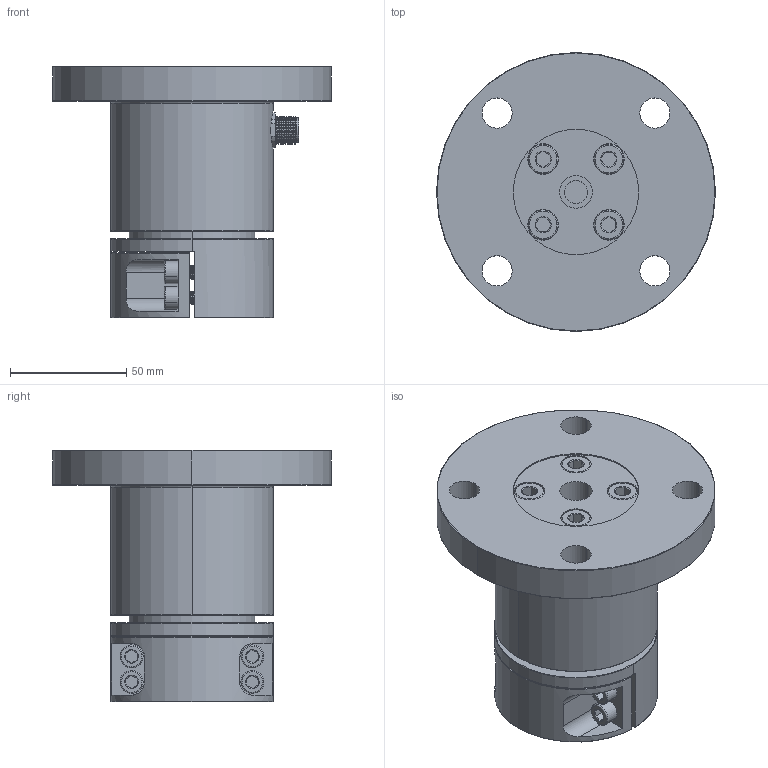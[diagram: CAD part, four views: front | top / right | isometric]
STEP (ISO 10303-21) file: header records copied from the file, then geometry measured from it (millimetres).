
FILE_DESCRIPTION (( 'STEP AP203' ), '1' );
FILE_NAME ('OWL220F.STEP', '2013-05-14T11:51:59', ( 'OS' ), ( 'Microsoft' ), 'SwSTEP 2.0', 'SolidWorks 2012', '' );
FILE_SCHEMA (( 'CONFIG_CONTROL_DESIGN' ));
Length unit declared in the file: millimetre
Products named in the file (37): 90005021 OWL220 Bearing Housing; OWL220 Beam Dummy; 90005024 OWL220 Flange Housing; OWL220F; Låsering Indv Ø47_0472_0_47-mattssons; Låsering Udv Ø20; 2204_Ø47xØ20x18; 22; 21; 20; 19; 18; 17; 16; 15; 14; 13; 12; 11; 10; 9; 8; 7; 6; 5; 4; 3; 2; 1; Lexan Ø36 x 0,5; 90010008 Unbraco M8 x 15; M12 x 1 NV14 x 2; 90005023 OWL220 Anti Rotation Pin Ø4; 90010004 Unbraco M6 x 12; 90080023 Connec indsats M12 43-01338; 90080022 M12 Adaptor R鷨; 90005022 OWL220 Clamp
Assembly tree (43 placements, depth 3):
  OWL220F
    90005024 OWL220 Flange Housing
    OWL220 Beam Dummy
    90005021 OWL220 Bearing Housing
    90005022 OWL220 Clamp
    90080022 M12 Adaptor R鷨
    90080023 Connec indsats M12 43-01338
    90010004 Unbraco M6 x 12  x4
    90005023 OWL220 Anti Rotation Pin Ø4  x2
    M12 x 1 NV14 x 2
    90010008 Unbraco M8 x 15  x4
    Lexan Ø36 x 0,5
    2204_Ø47xØ20x18
      1
      2
      3
      4
      5
      6
      7
      8
      9
      10
      11
      12
      13
      14
      15
      16
      17
      18
      19
      20
      21
      22
    Låsering Udv Ø20
    Låsering Indv Ø47_0472_0_47-mattssons
Bounding box: 120 x 120 x 108.2 mm (x, y, z)
Volume: 413388.2 mm3; surface area: 128658 mm2
Topology: 43 solids, 43 shells, 713 faces, 1739 edges, 1068 vertices
Faces by surface type: cylinder 337, plane 181, bspline 68, torus 65, cone 62
Entity records: 23837 total; most frequent: CARTESIAN_POINT 8201, DIRECTION 2537, ORIENTED_EDGE 2310, EDGE_CURVE 1155, AXIS2_PLACEMENT_3D 1065, VERTEX_POINT 754, EDGE_LOOP 603, CIRCLE 567
